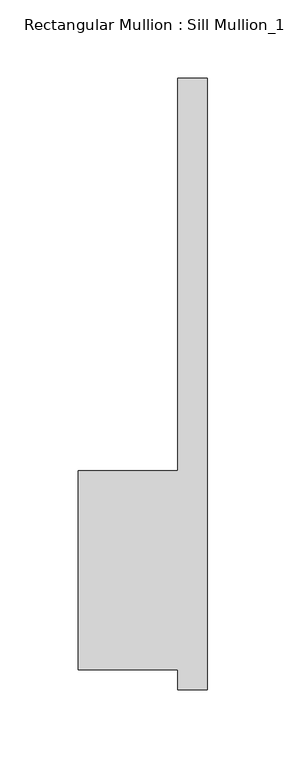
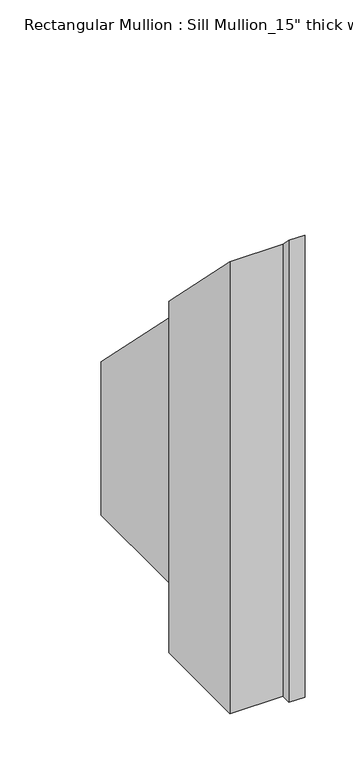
"""IFC4 building model written with IfcOpenShell, lengths in millimetres: member geometry."""

from ifc_helpers import new_model, si_unit, origin, place, context, project, spatial, faceted_brep, source, transform, mapped, element, save


def member_6d4cdfbf(model_context):
    return source(origin(), model_context, "Body", "Brep", [
        faceted_brep([(-82.55, 50.8, -496.3583333), (-19.05, 50.8, -496.3583333), (-19.05, 301.625, -496.3583333), (0.0, 301.625, -496.3583333), (0.0, -88.9, -496.3583333), (-19.05, -88.9, -496.3583333), (-19.05, -76.2, -496.3583333), (-82.55, -76.2, -496.3583333), (-82.55, -76.2, 76.2), (-82.55, 50.8, -50.8), (-19.05, -76.2, 76.2), (-19.05, -88.9, 88.9), (0.0, -88.9, 88.9), (0.0, 301.625, -301.625), (-19.05, 301.625, -301.625), (-19.05, 50.8, -50.8)], [[[0, 1, 2, 3, 4, 5, 6, 7]], [[8, 9, 0, 7]], [[10, 8, 7, 6]], [[11, 10, 6, 5]], [[12, 11, 5, 4]], [[13, 12, 4, 3]], [[14, 13, 3, 2]], [[15, 14, 2, 1]], [[9, 15, 1, 0]], [[9, 8, 10, 11, 12, 13, 14, 15]]]),
    ])


if __name__ == "__main__":
    model = new_model("IFC4")
    model_context = context("Model", 3, world=origin())
    ifc_project = project(units=[si_unit("LENGTHUNIT", "METRE", prefix="MILLI")], contexts=[model_context])
    site = spatial("IfcSite", under=ifc_project)
    building = spatial("IfcBuilding", under=site)
    placement = place(None, origin())
    member_shape = member_6d4cdfbf(model_context)
    element("IfcMember", 1, ObjectType="Rectangular Mullion : Sill Mullion_15\" thick wall", at=placement, inside=building, context=model_context, shape_type="MappedRepresentation", body=[
        mapped(member_shape, transform((0.0, 0.0, 0.0), x_axis=(1.0, 0.0, 0.0), y_axis=(0.0, 1.0, 0.0), z_axis=(0.0, 0.0, 1.0))),
    ])
    save(model, "model.ifc")
